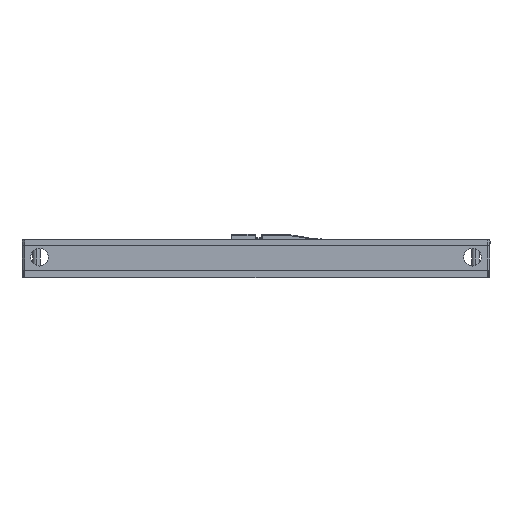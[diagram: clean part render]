
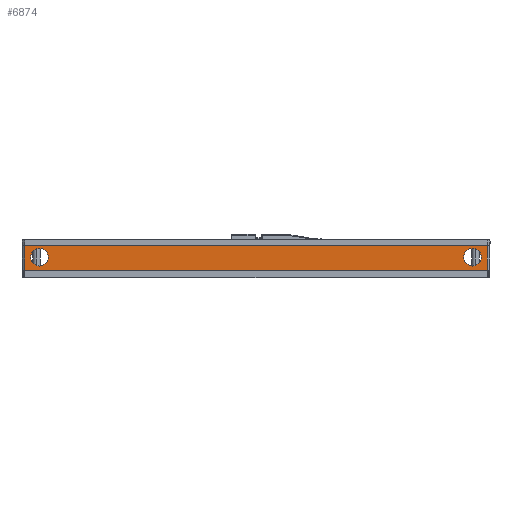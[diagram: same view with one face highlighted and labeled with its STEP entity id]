
A CAD part, left-side view. The second image highlights one B-rep face of the part: STEP entity #6874.
In plain terms, the highlighted planar face has unit normal (-1, 0, 0).
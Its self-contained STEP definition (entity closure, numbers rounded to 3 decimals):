
#10 = CARTESIAN_POINT ( 'NONE',  ( -75., 74., -4. ) ) ;
#415 = CARTESIAN_POINT ( 'NONE',  ( -75., -79., -8.5 ) ) ;
#421 = DIRECTION ( 'NONE',  ( 1., 0., 0. ) ) ;
#473 = FACE_BOUND ( 'NONE', #3648, .T. ) ;
#596 = CARTESIAN_POINT ( 'NONE',  ( -75., 80., -8.5 ) ) ;
#755 = VERTEX_POINT ( 'NONE', #10110 ) ;
#839 = EDGE_CURVE ( 'NONE', #1959, #2847, #5020, .T. ) ;
#1059 = CARTESIAN_POINT ( 'NONE',  ( -75., -79., 0. ) ) ;
#1176 = CARTESIAN_POINT ( 'NONE',  ( -75., -74., -4. ) ) ;
#1200 = ORIENTED_EDGE ( 'NONE', *, *, #2061, .T. ) ;
#1257 = FACE_BOUND ( 'NONE', #1950, .T. ) ;
#1460 = VECTOR ( 'NONE', #7716, 1000. ) ;
#1913 = CARTESIAN_POINT ( 'NONE',  ( -75., 80., -8.5 ) ) ;
#1936 = VERTEX_POINT ( 'NONE', #10693 ) ;
#1950 = EDGE_LOOP ( 'NONE', ( #6965, #10564 ) ) ;
#1959 = VERTEX_POINT ( 'NONE', #7424 ) ;
#2061 = EDGE_CURVE ( 'NONE', #2937, #9912, #4745, .T. ) ;
#2231 = ORIENTED_EDGE ( 'NONE', *, *, #9957, .F. ) ;
#2508 = VECTOR ( 'NONE', #7500, 1000. ) ;
#2552 = DIRECTION ( 'NONE',  ( -1., 0., 0. ) ) ;
#2566 = AXIS2_PLACEMENT_3D ( 'NONE', #3070, #8851, #3983 ) ;
#2847 = VERTEX_POINT ( 'NONE', #3602 ) ;
#2937 = VERTEX_POINT ( 'NONE', #415 ) ;
#2941 = ORIENTED_EDGE ( 'NONE', *, *, #8972, .T. ) ;
#3070 = CARTESIAN_POINT ( 'NONE',  ( -75., -74., -4. ) ) ;
#3254 = CARTESIAN_POINT ( 'NONE',  ( -75., 79., -8.5 ) ) ;
#3602 = CARTESIAN_POINT ( 'NONE',  ( -75., -77., -4. ) ) ;
#3648 = EDGE_LOOP ( 'NONE', ( #9065, #2231 ) ) ;
#3983 = DIRECTION ( 'NONE',  ( 0., 1., 0. ) ) ;
#4202 = EDGE_CURVE ( 'NONE', #7018, #2937, #7184, .T. ) ;
#4228 = ORIENTED_EDGE ( 'NONE', *, *, #4911, .F. ) ;
#4589 = LINE ( 'NONE', #4822, #6270 ) ;
#4745 = LINE ( 'NONE', #6692, #2508 ) ;
#4756 = CIRCLE ( 'NONE', #2566, 3. ) ;
#4822 = CARTESIAN_POINT ( 'NONE',  ( -75., 80., 0. ) ) ;
#4911 = EDGE_CURVE ( 'NONE', #5755, #9912, #4589, .T. ) ;
#5020 = CIRCLE ( 'NONE', #7460, 3. ) ;
#5121 = DIRECTION ( 'NONE',  ( 0., 1., 0. ) ) ;
#5241 = VECTOR ( 'NONE', #7721, 1000. ) ;
#5289 = AXIS2_PLACEMENT_3D ( 'NONE', #596, #421, #5587 ) ;
#5415 = CIRCLE ( 'NONE', #9994, 3. ) ;
#5587 = DIRECTION ( 'NONE',  ( 0., -1., 0. ) ) ;
#5683 = FACE_OUTER_BOUND ( 'NONE', #7607, .T. ) ;
#5755 = VERTEX_POINT ( 'NONE', #9732 ) ;
#6270 = VECTOR ( 'NONE', #6482, 1000. ) ;
#6482 = DIRECTION ( 'NONE',  ( 0., -1., 0. ) ) ;
#6692 = CARTESIAN_POINT ( 'NONE',  ( -75., -79., -8.5 ) ) ;
#6874 = ADVANCED_FACE ( 'NONE', ( #1257, #473, #5683 ), #9720, .F. ) ;
#6952 = CARTESIAN_POINT ( 'NONE',  ( -75., 79., -8.5 ) ) ;
#6965 = ORIENTED_EDGE ( 'NONE', *, *, #839, .F. ) ;
#7018 = VERTEX_POINT ( 'NONE', #3254 ) ;
#7184 = LINE ( 'NONE', #1913, #5241 ) ;
#7424 = CARTESIAN_POINT ( 'NONE',  ( -75., -71., -4. ) ) ;
#7460 = AXIS2_PLACEMENT_3D ( 'NONE', #1176, #7791, #10338 ) ;
#7500 = DIRECTION ( 'NONE',  ( 0., 0., 1. ) ) ;
#7607 = EDGE_LOOP ( 'NONE', ( #4228, #2941, #10596, #1200 ) ) ;
#7716 = DIRECTION ( 'NONE',  ( 0., 0., -1. ) ) ;
#7721 = DIRECTION ( 'NONE',  ( 0., -1., 0. ) ) ;
#7791 = DIRECTION ( 'NONE',  ( -1., 0., 0. ) ) ;
#8086 = LINE ( 'NONE', #6952, #1460 ) ;
#8292 = EDGE_CURVE ( 'NONE', #755, #1936, #10543, .T. ) ;
#8716 = DIRECTION ( 'NONE',  ( -1., 0., 0. ) ) ;
#8851 = DIRECTION ( 'NONE',  ( -1., 0., 0. ) ) ;
#8972 = EDGE_CURVE ( 'NONE', #5755, #7018, #8086, .T. ) ;
#9065 = ORIENTED_EDGE ( 'NONE', *, *, #8292, .F. ) ;
#9558 = DIRECTION ( 'NONE',  ( 0., 1., 0. ) ) ;
#9720 = PLANE ( 'NONE',  #5289 ) ;
#9732 = CARTESIAN_POINT ( 'NONE',  ( -75., 79., 0. ) ) ;
#9912 = VERTEX_POINT ( 'NONE', #1059 ) ;
#9957 = EDGE_CURVE ( 'NONE', #1936, #755, #5415, .T. ) ;
#9994 = AXIS2_PLACEMENT_3D ( 'NONE', #10488, #8716, #9558 ) ;
#10110 = CARTESIAN_POINT ( 'NONE',  ( -75., 77., -4. ) ) ;
#10157 = EDGE_CURVE ( 'NONE', #2847, #1959, #4756, .T. ) ;
#10338 = DIRECTION ( 'NONE',  ( 0., 1., 0. ) ) ;
#10403 = AXIS2_PLACEMENT_3D ( 'NONE', #10, #2552, #5121 ) ;
#10488 = CARTESIAN_POINT ( 'NONE',  ( -75., 74., -4. ) ) ;
#10543 = CIRCLE ( 'NONE', #10403, 3. ) ;
#10564 = ORIENTED_EDGE ( 'NONE', *, *, #10157, .F. ) ;
#10596 = ORIENTED_EDGE ( 'NONE', *, *, #4202, .T. ) ;
#10693 = CARTESIAN_POINT ( 'NONE',  ( -75., 71., -4. ) ) ;
